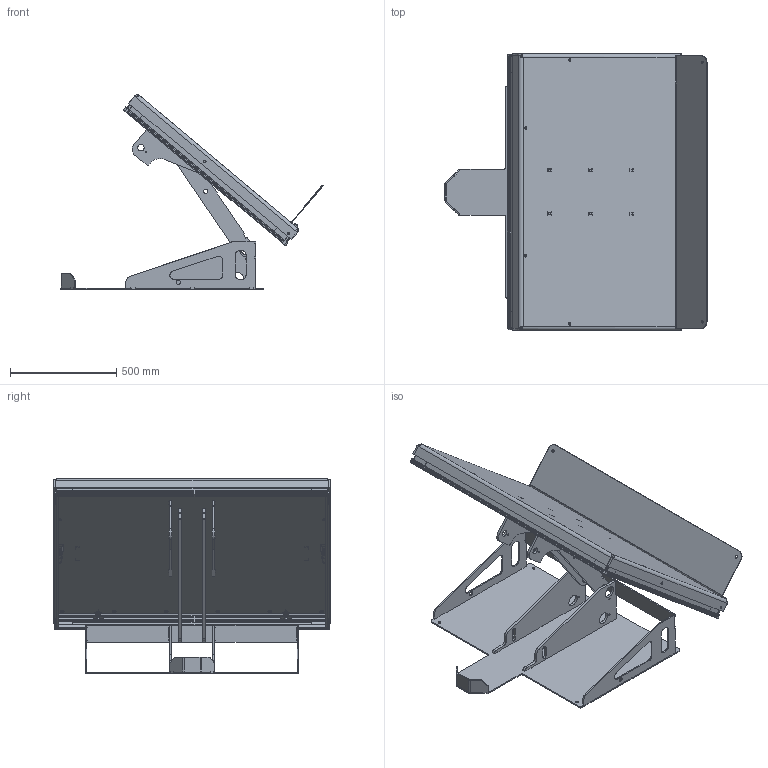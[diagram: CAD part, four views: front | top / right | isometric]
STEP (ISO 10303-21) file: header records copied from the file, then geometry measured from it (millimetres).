
FILE_DESCRIPTION(/* description */ ('Bottenramsplåt'),/* implementation_level */ '2;1');
FILE_NAME(/* name */ '\\EDMOFILE01\Users$\JOHSO\Desktop\34542_Övre_Tiltad_40_Grader.stp',/* time_stamp */ '2015-07-28T08:38:25+02:00',/* author */ ('JOHSO'),/* organization */ (''),/* preprocessor_version */ 'ST-DEVELOPER v15.6',/* originating_system */ 'Autodesk Inventor 2015',/* authorisation */ '');
FILE_SCHEMA (('AUTOMOTIVE_DESIGN { 1 0 10303 214 3 1 1 }'));
Products named in the file (25): 34548; 34427; 34547; 34549; 34509; 34544; 603937; 603938; 42394; 83212; 34543; 34559; 34558; 34546; 83208; 83209; 42289-1273; 42331; 42289-953; 43476; 33990; 42330; 43481; 34512; 34542
Assembly tree (57 placements, depth 3):
  34542
    34544
      34548
      34427
      34547  x2
      34549  x2
      34509
    34543
      603937
      603938  x2
      42394  x2
      83212  x4
    34558
      34559  x2
    34546
    83208  x6
    83209  x6
    34512
      42289-1273  x2
      42331  x4
      42289-953  x2
      43476  x4
      33990  x2
      42330  x4
      43481  x4
Bounding box: 1231.93 x 1299.66 x 915.6 mm (x, y, z)
Volume: 25260097.1 mm3; surface area: 8108101.2 mm2
Topology: 53 solids, 61 shells, 4850 faces, 13314 edges, 8690 vertices
Faces by surface type: plane 2416, cylinder 1672, bspline 502, cone 148, torus 64, sphere 48
Full cylindrical faces by diameter (mm): 0.474 x2, 1 x4, 3 x4, 3.141 x4, 3.2 x4, 4 x16, 4.3 x4, 4.5 x2, 4.9 x2, 5 x4, 5.2 x6, 5.3 x2, 7.4 x16, 7.6 x4, 8 x12, 8.376 x6, 8.5 x4, 10 x12, 10.5 x4, 11 x6, 11.63 x4, 12 x8, 12.5 x12, 13 x4, 14.6 x6, 14.63 x6, 16 x8, 20.5 x2, 30.2 x4
Entity records: 92437 total; most frequent: CARTESIAN_POINT 25005, ORIENTED_EDGE 13994, DIRECTION 13212, EDGE_CURVE 6991, VERTEX_POINT 4669, AXIS2_PLACEMENT_3D 4476, LINE 4260, VECTOR 4260
